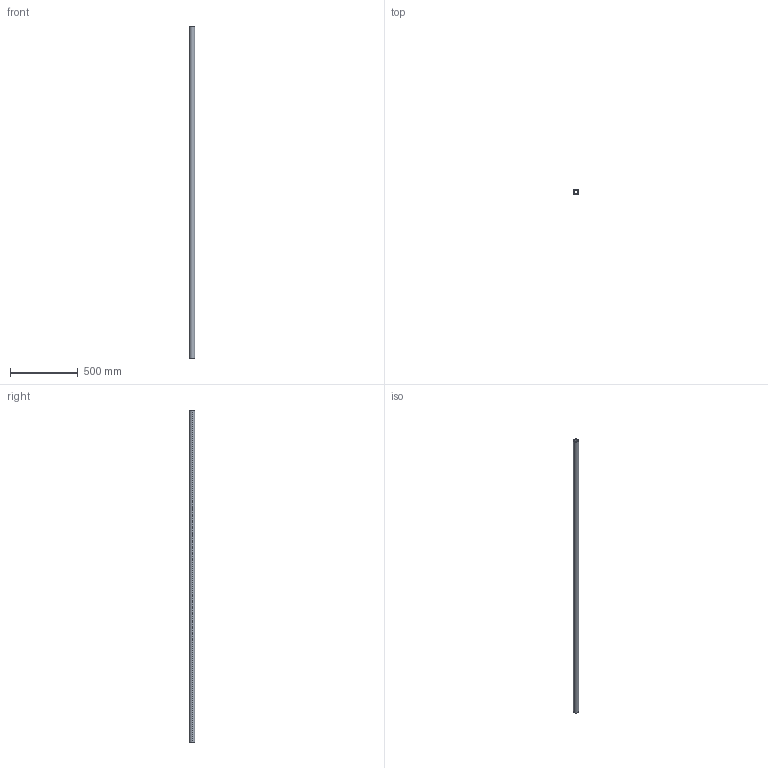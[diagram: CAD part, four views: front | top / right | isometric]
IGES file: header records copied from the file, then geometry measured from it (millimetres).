
Start section: SolidWorks IGES file using analytic representation for surfaces
Global section: file name: C:\Users\IanO\Desktop\L1771_v2\L1771.40_v2\L1771.40_v2_20230705_IGES\L1771.40-2450.igs; native system: SolidWorks 2019; preprocessor: SolidWorks 2019; author: IanO; date: 230705.161244; units: millimetre
Bounding box: 40 x 40 x 2450 mm (x, y, z)
Surface area: 524671.1 mm2 (no closed solid volume)
Topology: 0 solids, 0 shells, 6 faces, 272 edges, 272 vertices
Faces by surface type: revolution 4, bspline 2
